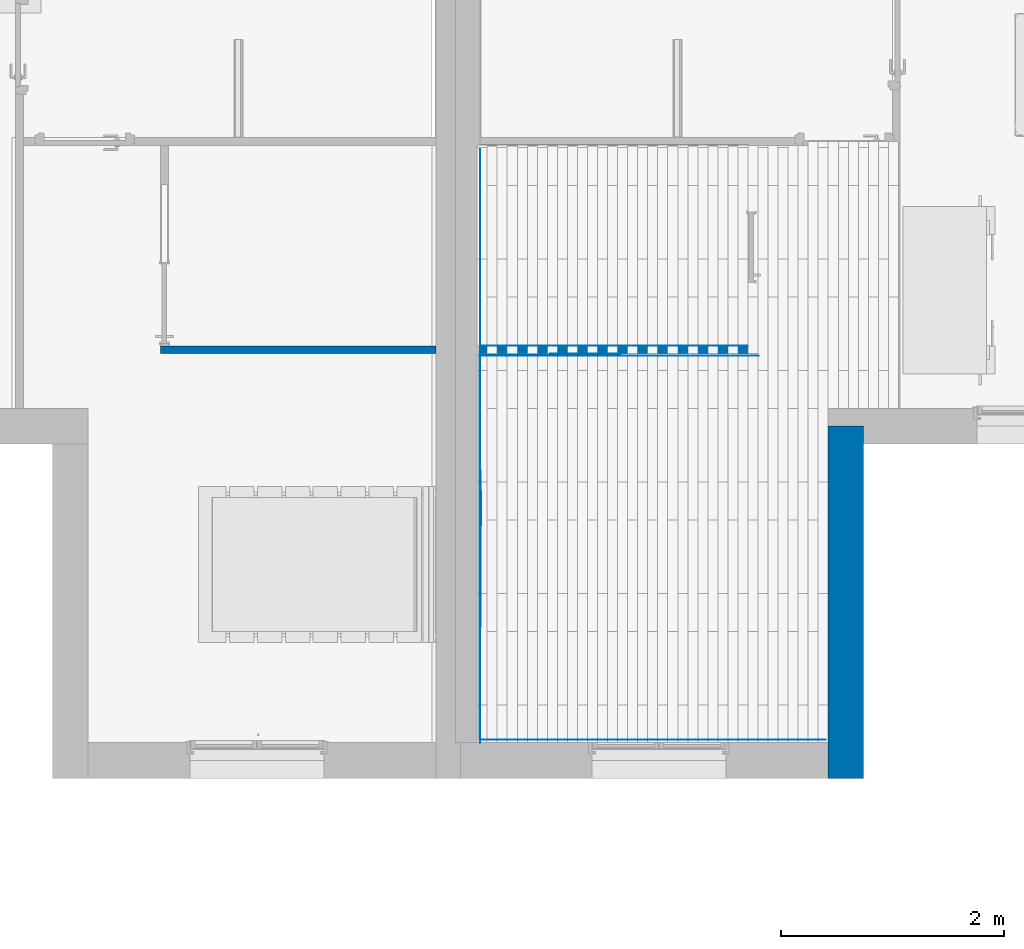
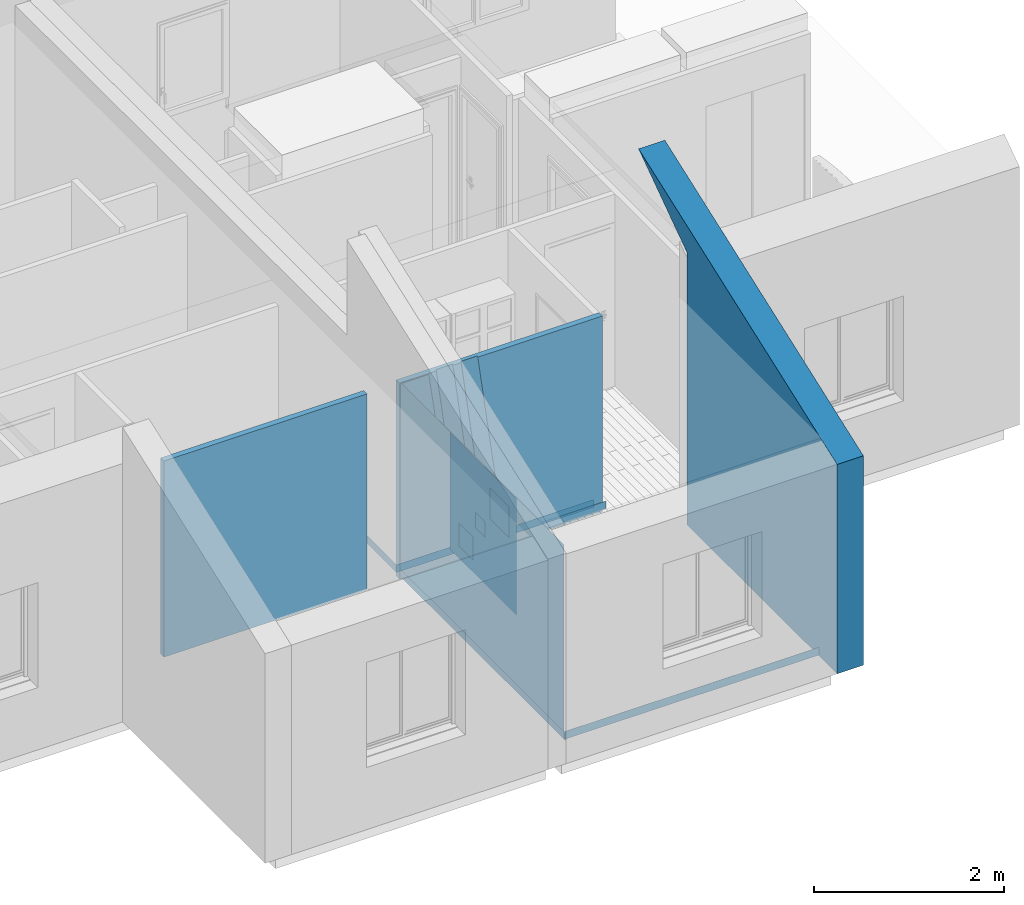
# One storey, part 27 of 61: 13 walls, 4 openings.
"""IFC2X3 building model written with IfcOpenShell, lengths in metres."""

import ifcopenshell
import ifcopenshell.guid

model = None  # the IFC model being written
_history = None  # IfcOwnerHistory: only IFC2X3 demands one
_inside = {}  # id of a spatial element -> (the spatial element, [elements in it])
_under = {}  # id of a project, library or spatial element -> (it, [spatial elements below it])
_declared = {}  # id of a project -> (the project, [libraries it declares])
_typed = {}  # id of a type object -> (the type object, [elements of that type])
_made_of = {}  # id of a material, layer set ... -> (it, [elements and type objects made of it])


def new_model(schema):
    """Start an empty IFC model of exactly this schema.

    Asked for "IFC4X3", IfcOpenShell would pick the latest addendum, in which some entities
    have other attributes; the version numbers below select the first issue.
    IFC2X3 requires an IfcOwnerHistory on every rooted entity: one is made here for all.
    """
    global model, _history
    if schema == "IFC4X3":
        model = ifcopenshell.file(schema_version=(4, 3, 0, 0))
    else:
        model = ifcopenshell.file(schema=schema)
    _inside.clear()
    _under.clear()
    _declared.clear()
    _typed.clear()
    _made_of.clear()
    _history = None
    if model.schema == "IFC2X3":
        org = make("IfcOrganization", Name="unknown")
        user = make(
            "IfcPersonAndOrganization",
            ThePerson=make("IfcPerson", FamilyName="unknown"),
            TheOrganization=org,
        )
        app = make(
            "IfcApplication",
            ApplicationDeveloper=org,
            Version="unknown",
            ApplicationFullName="unknown",
            ApplicationIdentifier="unknown",
        )
        _history = make(
            "IfcOwnerHistory",
            OwningUser=user,
            OwningApplication=app,
            ChangeAction="ADDED",
            CreationDate=0,
        )
    return model


def make(cls, **values):
    """One entity of the class cls with the attributes given. An attribute that is None is left unset."""
    return model.create_entity(
        cls, **{name: value for name, value in values.items() if value is not None}
    )


def entity(cls, *values):
    """Any entity or typed value of the class cls, its attributes in the order of the schema. None: left unset."""
    e = model.create_entity(cls)
    for i, value in enumerate(values):
        if value is not None:
            e[i] = value
    return e


def rooted(cls, **values):
    """An entity with a GlobalId (a new one), such as an element, a storey or a relation."""
    return make(cls, GlobalId=ifcopenshell.guid.new(), OwnerHistory=_history, **values)


def si_unit(unit_type, name, prefix=None):
    """IfcSIUnit, for example si_unit("LENGTHUNIT", "METRE", prefix="MILLI")."""
    return make("IfcSIUnit", UnitType=unit_type, Prefix=prefix, Name=name)


def converted_unit(unit_type, name, factor, base, dimensions=None, offset=None):
    """IfcConversionBasedUnit, such as the inch: factor (a typed value) times the base unit."""
    return make(
        "IfcConversionBasedUnit"
        if offset is None
        else "IfcConversionBasedUnitWithOffset",
        ConversionOffset=offset,
        Dimensions=None
        if dimensions is None
        else entity("IfcDimensionalExponents", *dimensions),
        UnitType=unit_type,
        Name=name,
        ConversionFactor=make(
            "IfcMeasureWithUnit", ValueComponent=factor, UnitComponent=base
        ),
    )


def derived_unit(unit_type, elements):
    """IfcDerivedUnit: a product of units, each with its exponent."""
    return make(
        "IfcDerivedUnit",
        Elements=[
            make("IfcDerivedUnitElement", Unit=unit, Exponent=power)
            for unit, power in elements
        ],
        UnitType=unit_type,
    )


def assignment(units):
    """IfcUnitAssignment: the units of a project."""
    return None if units is None else make("IfcUnitAssignment", Units=units)


def point(xyz):
    """IfcCartesianPoint."""
    return None if xyz is None else make("IfcCartesianPoint", Coordinates=xyz)


def direction(xyz):
    """IfcDirection."""
    return None if xyz is None else make("IfcDirection", DirectionRatios=xyz)


def frame(location, z_axis=None, x_axis=None):
    """IfcAxis2Placement3D, a coordinate frame: its origin and axes. An axis left out is left unset."""
    return make(
        "IfcAxis2Placement3D",
        Location=point(location),
        Axis=direction(z_axis),
        RefDirection=direction(x_axis),
    )


def frame_2d(location, x_axis=None):
    """IfcAxis2Placement2D, a coordinate frame in the plane: its origin and x axis."""
    return make(
        "IfcAxis2Placement2D", Location=point(location), RefDirection=direction(x_axis)
    )


def origin():
    """The frame at (0, 0, 0) with its axes left unset."""
    return frame((0.0, 0.0, 0.0))


def origin_2d_with_axis():
    """The frame at (0, 0) in the plane with the x axis (1, 0) written out."""
    return frame_2d((0.0, 0.0), x_axis=(1.0, 0.0))


def place(relative_to, where):
    """IfcLocalPlacement: puts the frame where relative to a parent placement (None: the world)."""
    return make(
        "IfcLocalPlacement", PlacementRelTo=relative_to, RelativePlacement=where
    )


def context(
    kind, dimensions, precision=None, world=None, true_north=None, identifier=None
):
    """IfcGeometricRepresentationContext, for example the 3D "Model" context."""
    return make(
        "IfcGeometricRepresentationContext",
        ContextIdentifier=identifier,
        ContextType=kind,
        CoordinateSpaceDimension=dimensions,
        Precision=precision,
        WorldCoordinateSystem=world,
        TrueNorth=true_north,
    )


def subcontext(parent, identifier, kind, view, scale=None):
    """IfcGeometricRepresentationSubContext, for example "Body" below "Model"."""
    return make(
        "IfcGeometricRepresentationSubContext",
        ContextIdentifier=identifier,
        ContextType=kind,
        ParentContext=parent,
        TargetScale=scale,
        TargetView=view,
    )


def project(units=None, contexts=None):
    """IfcProject with its units and contexts."""
    return rooted(
        "IfcProject",
        Name="project",
        RepresentationContexts=contexts,
        UnitsInContext=assignment(units),
    )


def spatial(cls, under=None, at=None, **own):
    """A site, building, storey or space (cls), placed at a placement, below another one or the project."""
    s = rooted(cls, ObjectPlacement=at, **own)
    if under is not None:
        _under.setdefault(under.id(), (under, []))[1].append(s)
    return s


def polyline(points):
    """IfcPolyline through the points."""
    return make("IfcPolyline", Points=[point(p) for p in points])


def profile(cls, at=None, kind="AREA", **sizes):
    """A parametric profile (cls). Its sizes go by their IFC names, for example OverallWidth=200.0."""
    return make(cls, ProfileType=kind, Position=at, **sizes)


def rectangle(**sizes):
    """IfcRectangleProfileDef."""
    return profile("IfcRectangleProfileDef", **sizes)


def outline(outer, holes=None, kind="AREA"):
    """IfcArbitraryClosedProfileDef: a profile drawn as a closed curve; with holes, ...WithVoids."""
    if holes is None:
        return make("IfcArbitraryClosedProfileDef", ProfileType=kind, OuterCurve=outer)
    return make(
        "IfcArbitraryProfileDefWithVoids",
        ProfileType=kind,
        OuterCurve=outer,
        InnerCurves=holes,
    )


def extrude(swept, where, along, depth):
    """IfcExtrudedAreaSolid: the profile swept, set in the frame where, extruded along a direction by depth."""
    return make(
        "IfcExtrudedAreaSolid",
        SweptArea=swept,
        Position=where,
        ExtrudedDirection=direction(along),
        Depth=depth,
    )


def clip(a, b, op="DIFFERENCE"):
    """IfcBooleanClippingResult: the solid a cut by the half space b."""
    return make(
        "IfcBooleanClippingResult", Operator=op, FirstOperand=a, SecondOperand=b
    )


def halfspace(plane, agree):
    """IfcHalfSpaceSolid: all space on one side of the plane z = 0 of the frame plane."""
    return make(
        "IfcHalfSpaceSolid",
        BaseSurface=make("IfcPlane", Position=plane),
        AgreementFlag=agree,
    )


def shape(context_of_items, identifier, shape_type, items):
    """IfcShapeRepresentation: the items that make up one representation, for example the "Body"."""
    return make(
        "IfcShapeRepresentation",
        ContextOfItems=context_of_items,
        RepresentationIdentifier=identifier,
        RepresentationType=shape_type,
        Items=items,
    )


def material(Name=None, Category=None):
    """IfcMaterial."""
    return make("IfcMaterial", Name=Name, Category=Category)


def layer(
    of_material, thickness, ventilated=None, Name=None, Category=None, Priority=None
):
    """IfcMaterialLayer: one layer of a wall or slab, of a material (None: an air gap)."""
    return make(
        "IfcMaterialLayer",
        Material=of_material,
        LayerThickness=thickness,
        IsVentilated=ventilated,
        Name=Name,
        Category=Category,
        Priority=Priority,
    )


def layer_set(layers, Name=None):
    """IfcMaterialLayerSet."""
    return make("IfcMaterialLayerSet", MaterialLayers=layers, LayerSetName=Name)


def layer_usage(for_layer_set, set_direction, sense, offset, extent=None):
    """IfcMaterialLayerSetUsage: how a layer set lies in its element."""
    return make(
        "IfcMaterialLayerSetUsage",
        ForLayerSet=for_layer_set,
        LayerSetDirection=set_direction,
        DirectionSense=sense,
        OffsetFromReferenceLine=offset,
        ReferenceExtent=extent,
    )


def made_of(thing, what):
    """Note that an element or type object is made of a material, layer set ...; save() writes the relation."""
    if what is not None:
        _made_of.setdefault(what.id(), (what, []))[1].append(thing)
    return thing


def type_object(cls, material=None, **own):
    """A type object (cls), such as IfcWallType, which elements share."""
    return made_of(rooted(cls, **own), material)


def element(
    cls,
    number,
    at=None,
    inside=None,
    cuts=None,
    type_object=None,
    material=None,
    context=None,
    identifier="Body",
    shape_type=None,
    held_by="IfcProductDefinitionShape",
    body=None,
    shapes=None,
    **own,
):
    """One element of the class cls, such as IfcWall. Its Tag is "e" and its number.

    at: its placement. inside: the storey or other place that contains it. cuts: it is an
    opening in that element (IfcRelVoidsElement). A single representation is given by context,
    identifier, shape_type and body (its items); several are given by shapes. held_by: the class
    of the entity that holds the representations. save() writes the other relations.
    """
    e = rooted(cls, Tag="e%d" % number, ObjectPlacement=at, **own)
    if body is not None:
        shapes = [shape(context, identifier, shape_type, body)]
    if shapes is not None:
        e.Representation = make(held_by, Representations=shapes)
    if inside is not None:
        _inside.setdefault(inside.id(), (inside, []))[1].append(e)
    if cuts is not None:
        rooted(
            "IfcRelVoidsElement", RelatingBuildingElement=cuts, RelatedOpeningElement=e
        )
    if type_object is not None:
        _typed.setdefault(type_object.id(), (type_object, []))[1].append(e)
    return made_of(e, material)


def aggregate(whole, parts):
    """IfcRelAggregates: a whole, such as a stair, and the parts it consists of."""
    return rooted("IfcRelAggregates", RelatingObject=whole, RelatedObjects=parts)


def save(model, path):
    """Write the relations noted so far, then the file.

    IfcRelAggregates (storeys below a building ...), IfcRelContainedInSpatialStructure (elements
    in a storey), IfcRelDefinesByType, IfcRelAssociatesMaterial and IfcRelDeclares: one each for
    every whole, place, type object, material and project.
    """
    for whole, parts in _under.values():
        aggregate(whole, parts)
    for where, things in _inside.values():
        rooted(
            "IfcRelContainedInSpatialStructure",
            RelatedElements=things,
            RelatingStructure=where,
        )
    for kind, things in _typed.values():
        rooted("IfcRelDefinesByType", RelatedObjects=things, RelatingType=kind)
    for what, things in _made_of.values():
        rooted("IfcRelAssociatesMaterial", RelatedObjects=things, RelatingMaterial=what)
    for by, libraries in _declared.values():
        rooted("IfcRelDeclares", RelatingContext=by, RelatedDefinitions=libraries)
    model.write(path)


model = new_model("IFC2X3")

# Units and contexts
model_context = context("Model", 3, precision=1e-05, world=origin(), true_north=direction((6.12303176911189e-17, 1.0)))
body_context = subcontext(model_context, "Body", "Model", "MODEL_VIEW")
ifc_project = project(units=[si_unit("LENGTHUNIT", "METRE"), si_unit("AREAUNIT", "SQUARE_METRE"), si_unit("VOLUMEUNIT", "CUBIC_METRE"), converted_unit("PLANEANGLEUNIT", "DEGREE", entity("IfcRatioMeasure", 0.0174532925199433), si_unit("PLANEANGLEUNIT", "RADIAN"), dimensions=[0, 0, 0, 0, 0, 0, 0]), si_unit("MASSUNIT", "GRAM", prefix="KILO"), derived_unit("MASSDENSITYUNIT", [(si_unit("MASSUNIT", "GRAM", prefix="KILO"), 1), (si_unit("LENGTHUNIT", "METRE"), -3)]), si_unit("TIMEUNIT", "SECOND"), si_unit("FREQUENCYUNIT", "HERTZ"), si_unit("THERMODYNAMICTEMPERATUREUNIT", "DEGREE_CELSIUS"), derived_unit("THERMALTRANSMITTANCEUNIT", [(si_unit("MASSUNIT", "GRAM", prefix="KILO"), 1), (si_unit("THERMODYNAMICTEMPERATUREUNIT", "KELVIN"), -1), (si_unit("TIMEUNIT", "SECOND"), -3)]), derived_unit("VOLUMETRICFLOWRATEUNIT", [(si_unit("LENGTHUNIT", "METRE"), 3), (si_unit("TIMEUNIT", "SECOND"), -1)]), si_unit("ELECTRICCURRENTUNIT", "AMPERE"), si_unit("ELECTRICVOLTAGEUNIT", "VOLT"), si_unit("POWERUNIT", "WATT"), si_unit("FORCEUNIT", "NEWTON", prefix="KILO"), si_unit("ILLUMINANCEUNIT", "LUX"), si_unit("LUMINOUSFLUXUNIT", "LUMEN"), si_unit("LUMINOUSINTENSITYUNIT", "CANDELA"), derived_unit("USERDEFINED", [(si_unit("MASSUNIT", "GRAM", prefix="KILO"), -1), (si_unit("LENGTHUNIT", "METRE"), -2), (si_unit("TIMEUNIT", "SECOND"), 3), (si_unit("LUMINOUSFLUXUNIT", "LUMEN"), 1)]), derived_unit("LINEARVELOCITYUNIT", [(si_unit("LENGTHUNIT", "METRE"), 1), (si_unit("TIMEUNIT", "SECOND"), -1)]), si_unit("PRESSUREUNIT", "PASCAL"), derived_unit("USERDEFINED", [(si_unit("LENGTHUNIT", "METRE"), -2), (si_unit("MASSUNIT", "GRAM", prefix="KILO"), 1), (si_unit("TIMEUNIT", "SECOND"), -2)])], contexts=[model_context])

# Site, building, storey
site_placement = place(None, origin())
site = spatial("IfcSite", under=ifc_project, at=site_placement, Name="Surface", CompositionType="ELEMENT")
building_placement = place(site_placement, origin())
building = spatial("IfcBuilding", under=site, at=building_placement, CompositionType="ELEMENT")
storey_placement = place(building_placement, frame((0.0, 0.0, 2.82)))
storey = spatial("IfcBuildingStorey", under=building, at=storey_placement, Name="ETAGE", CompositionType="ELEMENT", Elevation=2.82)

# Walls
ifc_material_1 = material(Name="Peinture - Blanc")
ifc_layer_1 = layer(ifc_material_1, 0.07)
ifc_layer_set_1 = layer_set([ifc_layer_1], Name="Mur de base:Int.  Platre 70 mm en blanc")
ifc_layer_usage_1 = layer_usage(ifc_layer_set_1, "AXIS2", "NEGATIVE", 0.035)
wall_type_1 = type_object("IfcWallType", Name="Mur de base:Int.  Platre 70 mm en blanc", PredefinedType="STANDARD", material=ifc_layer_set_1)
wall_1_placement = place(storey_placement, frame((86.3967857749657, 84.7725239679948, 0.0), z_axis=(0.0, 0.0, 1.0), x_axis=(-1.0, 0.0, 0.0)))
element("IfcWallStandardCase", 1, at=wall_1_placement, inside=storey, type_object=wall_type_1, material=ifc_layer_usage_1, Name="Mur de base:Int.  Platre 70 mm en blanc", ObjectType="Mur de base:Int.  Platre 70 mm en blanc", context=body_context, shape_type="SweptSolid", body=[
    extrude(rectangle(XDim=2.47038340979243, YDim=0.0699999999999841, at=frame_2d((1.23519170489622, 0.0), x_axis=(-1.0, 0.0))), origin(), (0.0, 0.0, 1.0), 2.52),
])
ifc_layer_usage_2 = layer_usage(ifc_layer_set_1, "AXIS2", "POSITIVE", -0.035)
wall_2_placement = place(storey_placement, frame((81.0610189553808, 84.7725239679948, 0.0)))
element("IfcWallStandardCase", 2, at=wall_2_placement, inside=storey, type_object=wall_type_1, material=ifc_layer_usage_2, Name="Mur de base:Int.  Platre 70 mm en blanc", ObjectType="Mur de base:Int.  Platre 70 mm en blanc", context=body_context, shape_type="SweptSolid", body=[
    extrude(rectangle(XDim=2.47038340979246, YDim=0.0699999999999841, at=frame_2d((1.23519170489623, 0.0), x_axis=(-1.0, 0.0))), origin(), (0.0, 0.0, 1.0), 2.52),
])

# Wall, opening
ifc_material_2 = material(Name="Enduit  gris")
ifc_layer_2 = layer(ifc_material_2, 0.02)
ifc_material_3 = material(Name="Parpaing")
ifc_layer_3 = layer(ifc_material_3, 0.2)
ifc_material_4 = material(Name="Isolant")
ifc_layer_4 = layer(ifc_material_4, 0.1)
ifc_layer_set_2 = layer_set([ifc_layer_2, ifc_layer_3, ifc_layer_4], Name="Mur de base:Ext. Parpaing 20 + Isolant 10 enduit gris")
ifc_layer_usage_3 = layer_usage(ifc_layer_set_2, "AXIS2", "NEGATIVE", 0.16)
wall_type_2 = type_object("IfcWallType", Name="Mur de base:Ext. Parpaing 20 + Isolant 10 enduit gris", PredefinedType="STANDARD", material=ifc_layer_set_2)
wall_3_placement = place(storey_placement, frame((87.2067857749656, 85.1094083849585, 0.0), z_axis=(0.0, 0.0, 1.0), x_axis=(0.0, -1.0, 0.0)))
wall_3 = element("IfcWallStandardCase", 3, at=wall_3_placement, inside=storey, type_object=wall_type_2, material=ifc_layer_usage_3, Name="Mur de base:Ext. Parpaing 20 + Isolant 10 enduit gris", ObjectType="Mur de base:Ext. Parpaing 20 + Isolant 10 enduit gris", context=body_context, shape_type="Clipping", body=[
    clip(clip(extrude(rectangle(XDim=4.1818844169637, YDim=0.319999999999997, at=frame_2d((2.09094220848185, 0.0), x_axis=(-1.0, 0.0))), origin(), (0.0, 0.0, 1.0), 4.21384621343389), halfspace(frame((0.0, -0.159999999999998, 4.21384621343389), z_axis=(0.342020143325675, 0.0, 0.939692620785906), x_axis=(0.0, 1.0, 0.0)), False)), halfspace(frame((0.0, 0.0, 4.21384621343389), z_axis=(-0.971831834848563, 0.0, -0.235675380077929), x_axis=(0.0, 1.0, 0.0)), False)),
])
opening_1_placement = place(wall_3_placement, origin())
element("IfcOpeningElement", 4, at=opening_1_placement, cuts=wall_3, Name="Mur de base:Ext. Parpaing 20 + Isolant 10 enduit gris", ObjectType="Opening", context=body_context, shape_type="SweptSolid", body=[
    extrude(outline(polyline([(-1.75739728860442, -0.274822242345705), (2.57858560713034, -0.274822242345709), (-0.82118831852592, 0.549644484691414), (-1.75739728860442, -0.274822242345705)])), frame((0.681256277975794, 0.159999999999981, 2.57072041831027), z_axis=(0.0, -1.0, 0.0), x_axis=(0.235675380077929, 0.0, -0.971831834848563)), (0.0, 0.0, 1.0), 0.32),
])

# Walls
ifc_material_5 = material(Name="biorox 2")
ifc_layer_5 = layer(ifc_material_5, 0.002)
ifc_layer_set_3 = layer_set([ifc_layer_5], Name="Mur de base:peinture biorox 2")
ifc_layer_usage_4 = layer_usage(ifc_layer_set_3, "AXIS2", "POSITIVE", -0.001)
wall_type_3 = type_object("IfcWallType", Name="Mur de base:peinture biorox 2", PredefinedType="STANDARD", material=ifc_layer_set_3)
wall_4_placement = place(storey_placement, frame((83.9310898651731, 84.8089434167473, 0.0400000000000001)))
element("IfcWallStandardCase", 5, at=wall_4_placement, inside=storey, type_object=wall_type_3, material=ifc_layer_usage_4, Name="Mur de base:peinture biorox 2", ObjectType="Mur de base:peinture biorox 2", context=body_context, shape_type="Clipping", body=[
    clip(extrude(rectangle(XDim=2.39781250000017, YDim=0.00199999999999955, at=frame_2d((1.19890625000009, -3.477903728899e-15), x_axis=(-1.0, 0.0))), origin(), (0.0, 0.0, 1.0), 0.0997627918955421), halfspace(frame((0.0, -0.000999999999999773, 0.0997627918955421), z_axis=(0.0, 0.0, 1.0), x_axis=(0.0, 1.0, 0.0)), False)),
])
ifc_layer_usage_5 = layer_usage(ifc_layer_set_3, "AXIS2", "NEGATIVE", 0.001)
wall_5_placement = place(storey_placement, frame((84.3695433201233, 84.7361045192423, 0.14)))
element("IfcWallStandardCase", 6, at=wall_5_placement, inside=storey, type_object=wall_type_3, material=ifc_layer_usage_5, Name="Mur de base:peinture biorox 2", ObjectType="Mur de base:peinture biorox 2", context=body_context, shape_type="Clipping", body=[
    clip(clip(extrude(rectangle(XDim=0.518694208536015, YDim=0.00199999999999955, at=frame_2d((0.259347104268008, 0.0), x_axis=(-1.0, 0.0))), origin(), (0.0, 0.0, 1.0), 2.4), halfspace(frame((0.316929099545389, -0.000999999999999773, 0.0), z_axis=(-0.991393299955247, 0.0, -0.130917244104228), x_axis=(0.0, 1.0, 0.0)), False)), halfspace(frame((0.201765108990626, -0.000999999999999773, 2.4), z_axis=(0.991393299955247, 0.0, 0.130917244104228), x_axis=(0.0, 1.0, 0.0)), False)),
])

# Wall, openings
ifc_layer_usage_6 = layer_usage(ifc_layer_set_3, "AXIS2", "POSITIVE", -0.001)
wall_6_placement = place(storey_placement, frame((83.9345898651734, 83.6875239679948, 1.02), z_axis=(0.0, 0.0, 1.0), x_axis=(0.0, -1.0, 0.0)))
wall_6 = element("IfcWallStandardCase", 7, at=wall_6_placement, inside=storey, type_object=wall_type_3, material=ifc_layer_usage_6, Name="Mur de base:peinture biorox 2", ObjectType="Mur de base:peinture biorox 2", context=body_context, shape_type="Clipping", body=[
    clip(clip(extrude(rectangle(XDim=1.39999999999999, YDim=0.00199999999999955, at=frame_2d((0.699999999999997, 0.0), x_axis=(-1.0, 0.0))), origin(), (0.0, 0.0, 1.0), 1.5), halfspace(frame((1.39999999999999, -0.000999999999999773, 0.0), z_axis=(0.0, 0.0, -1.0), x_axis=(0.0, 1.0, 0.0)), False)), halfspace(frame((0.0, -0.000999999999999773, 1.5), z_axis=(0.0, 0.0, 1.0), x_axis=(0.0, 1.0, 0.0)), False)),
])
opening_2_placement = place(wall_6_placement, origin())
element("IfcOpeningElement", 8, at=opening_2_placement, cuts=wall_6, Name="Mur de base:peinture biorox 2", ObjectType="Opening", context=body_context, shape_type="SweptSolid", body=[
    extrude(rectangle(XDim=0.400000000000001, YDim=0.399999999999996, at=frame_2d((5.41233724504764e-16, 8.65973959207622e-15), x_axis=(1.0, 0.0))), frame((1.03716110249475, 0.000999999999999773, 1.1), z_axis=(0.0, -1.0, 0.0), x_axis=(0.0, 0.0, -1.0)), (0.0, 0.0, 1.0), 0.002),
])
opening_3_placement = place(wall_6_placement, origin())
element("IfcOpeningElement", 9, at=opening_3_placement, cuts=wall_6, Name="Mur de base:peinture biorox 2", ObjectType="Opening", context=body_context, shape_type="SweptSolid", body=[
    extrude(rectangle(XDim=0.200000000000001, YDim=0.200000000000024, at=frame_2d((2.70616862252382e-16, 0.0), x_axis=(1.0, 0.0))), frame((0.637161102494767, 0.000999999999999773, 0.699999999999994), z_axis=(0.0, -1.0, 0.0), x_axis=(0.0, 0.0, -1.0)), (0.0, 0.0, 1.0), 0.002),
])
opening_4_placement = place(wall_6_placement, origin())
element("IfcOpeningElement", 10, at=opening_4_placement, cuts=wall_6, Name="Mur de base:peinture biorox 2", ObjectType="Opening", context=body_context, shape_type="SweptSolid", body=[
    extrude(rectangle(XDim=0.300000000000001, YDim=0.300000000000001, at=origin_2d_with_axis()), frame((0.337161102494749, 0.000999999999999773, 0.299999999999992), z_axis=(0.0, -1.0, 0.0), x_axis=(0.0, 0.0, -1.0)), (0.0, 0.0, 1.0), 0.002),
])

# Walls
ifc_material_6 = material(Name="Blanc - Element de salle de bains")
ifc_layer_6 = layer(ifc_material_6, 0.002)
ifc_layer_set_4 = layer_set([ifc_layer_6], Name="Mur de base:PLINTHE EN BOIS")
ifc_layer_usage_7 = layer_usage(ifc_layer_set_4, "AXIS2", "NEGATIVE", 0.001)
wall_type_4 = type_object("IfcWallType", Name="Mur de base:PLINTHE EN BOIS", PredefinedType="STANDARD", material=ifc_layer_set_4)
wall_7_placement = place(storey_placement, frame((83.9300898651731, 86.5975239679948, 0.0400000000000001), z_axis=(0.0, 0.0, 1.0), x_axis=(0.0, -1.0, 0.0)))
element("IfcWallStandardCase", 11, at=wall_7_placement, inside=storey, type_object=wall_type_4, material=ifc_layer_usage_7, Name="Mur de base:PLINTHE EN BOIS", ObjectType="Mur de base:PLINTHE EN BOIS", context=body_context, shape_type="SweptSolid", body=[
    extrude(rectangle(XDim=5.34999999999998, YDim=0.00199999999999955, at=frame_2d((2.67499999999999, 0.0), x_axis=(-1.0, 0.0))), origin(), (0.0, 0.0, 1.0), 0.1),
])
ifc_layer_usage_8 = layer_usage(ifc_layer_set_4, "AXIS2", "POSITIVE", -0.001)
wall_8_placement = place(storey_placement, frame((83.9276523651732, 81.2735239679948, 0.0400000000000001)))
element("IfcWallStandardCase", 12, at=wall_8_placement, inside=storey, type_object=wall_type_4, material=ifc_layer_usage_8, Name="Mur de base:PLINTHE EN BOIS", ObjectType="Mur de base:PLINTHE EN BOIS", context=body_context, shape_type="SweptSolid", body=[
    extrude(rectangle(XDim=3.10100000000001, YDim=0.00199999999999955, at=frame_2d((1.5505, -5.85469173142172e-18), x_axis=(-1.0, 0.0))), origin(), (0.0, 0.0, 1.0), 0.1),
])
ifc_layer_usage_9 = layer_usage(ifc_layer_set_4, "AXIS2", "NEGATIVE", 0.001)
wall_9_placement = place(storey_placement, frame((83.9276523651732, 84.7190239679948, 0.0400000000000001)))
element("IfcWallStandardCase", 13, at=wall_9_placement, inside=storey, type_object=wall_type_4, material=ifc_layer_usage_9, Name="Mur de base:PLINTHE EN BOIS", ObjectType="Mur de base:PLINTHE EN BOIS", context=body_context, shape_type="SweptSolid", body=[
    extrude(rectangle(XDim=2.5, YDim=0.00199999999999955, at=frame_2d((1.25, 1.7018721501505e-15), x_axis=(-1.0, 0.0))), origin(), (0.0, 0.0, 1.0), 0.1),
])
ifc_material_7 = material(Name="biorox 1")
ifc_layer_7 = layer(ifc_material_7, 0.002)
ifc_layer_set_5 = layer_set([ifc_layer_7], Name="Mur de base:peinture biorox 1")
ifc_layer_usage_10 = layer_usage(ifc_layer_set_5, "AXIS2", "NEGATIVE", 0.001)
wall_type_5 = type_object("IfcWallType", Name="Mur de base:peinture biorox 1", PredefinedType="STANDARD", material=ifc_layer_set_5)
wall_10_placement = place(storey_placement, frame((84.6721909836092, 84.7361045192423, 0.14)))
element("IfcWallStandardCase", 14, at=wall_10_placement, inside=storey, type_object=wall_type_5, material=ifc_layer_usage_10, Name="Mur de base:peinture biorox 1", ObjectType="Mur de base:peinture biorox 1", context=body_context, shape_type="Clipping", body=[
    clip(clip(extrude(rectangle(XDim=0.518694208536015, YDim=0.00199999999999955, at=frame_2d((0.259347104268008, 0.0), x_axis=(-1.0, 0.0))), origin(), (0.0, 0.0, 1.0), 2.4), halfspace(frame((0.316929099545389, -0.000999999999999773, 0.0), z_axis=(-0.991393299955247, 0.0, -0.130917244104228), x_axis=(0.0, 1.0, 0.0)), False)), halfspace(frame((0.201765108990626, -0.000999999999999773, 2.4), z_axis=(0.991393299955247, 0.0, 0.130917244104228), x_axis=(0.0, 1.0, 0.0)), False)),
])
wall_11_placement = place(storey_placement, frame((83.9365898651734, 83.5003628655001, 1.16999999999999), z_axis=(0.0, 0.0, 1.0), x_axis=(0.0, -1.0, 0.0)))
element("IfcWall", 15, at=wall_11_placement, inside=storey, type_object=wall_type_5, Name="Mur de base:peinture biorox 1", ObjectType="Mur de base:peinture biorox 1", context=body_context, shape_type="SweptSolid", body=[
    extrude(rectangle(XDim=0.00199999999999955, YDim=0.399999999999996, at=frame_2d((0.0, -8.65973959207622e-15), x_axis=(1.0, 0.0))), frame((0.849999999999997, 0.0, 0.750000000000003), z_axis=(0.0, 0.0, 1.0), x_axis=(0.0, 1.0, 0.0)), (0.0, 0.0, 1.0), 0.400000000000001),
    extrude(rectangle(XDim=0.00199999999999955, YDim=0.300000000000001, at=origin_2d_with_axis()), frame((0.150000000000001, 0.0, 0.0), z_axis=(0.0, 0.0, 1.0), x_axis=(0.0, 1.0, 0.0)), (0.0, 0.0, 1.0), 0.300000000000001),
    extrude(rectangle(XDim=0.00199999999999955, YDim=0.200000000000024, at=origin_2d_with_axis()), frame((0.450000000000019, 0.0, 0.450000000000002), z_axis=(0.0, 0.0, 1.0), x_axis=(0.0, 1.0, 0.0)), (0.0, 0.0, 1.0), 0.200000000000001),
])
ifc_material_8 = material(Name="papier peint jardin sarcelle")
ifc_layer_8 = layer(ifc_material_8, 0.002)
ifc_layer_set_6 = layer_set([ifc_layer_8], Name="Mur de base:PAPIER PEINT Jardin Sarcelle")
ifc_layer_usage_11 = layer_usage(ifc_layer_set_6, "AXIS2", "NEGATIVE", 0.001)
wall_type_6 = type_object("IfcWallType", Name="Mur de base:PAPIER PEINT Jardin Sarcelle", PredefinedType="STANDARD", material=ifc_layer_set_6)
wall_12_placement = place(storey_placement, frame((83.9276523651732, 84.7190239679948, 0.14), z_axis=(0.0, 0.0, 1.0), x_axis=(0.0, -1.0, 0.0)))
element("IfcWallStandardCase", 16, at=wall_12_placement, inside=storey, type_object=wall_type_6, material=ifc_layer_usage_11, Name="Mur de base:PAPIER PEINT Jardin Sarcelle", ObjectType="Mur de base:PAPIER PEINT Jardin Sarcelle", context=body_context, shape_type="Clipping", body=[
    clip(extrude(rectangle(XDim=3.44550000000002, YDim=0.00199999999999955, at=frame_2d((1.72275000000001, 0.0), x_axis=(-1.0, 0.0))), origin(), (0.0, 0.0, 1.0), 2.4), halfspace(frame((3.44550000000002, -0.000999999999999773, 0.0), z_axis=(0.0, 0.0, -1.0), x_axis=(0.0, 1.0, 0.0)), False)),
])
ifc_layer_usage_12 = layer_usage(ifc_layer_set_6, "AXIS2", "NEGATIVE", 0.001)
wall_13_placement = place(storey_placement, frame((83.9310898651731, 84.7211983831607, 0.14)))
element("IfcWallStandardCase", 17, at=wall_13_placement, inside=storey, type_object=wall_type_6, material=ifc_layer_usage_12, Name="Mur de base:PAPIER PEINT Jardin Sarcelle", ObjectType="Mur de base:PAPIER PEINT Jardin Sarcelle", context=body_context, shape_type="Clipping", body=[
    clip(extrude(rectangle(XDim=0.670970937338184, YDim=0.00199999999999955, at=frame_2d((0.335485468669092, 0.0), x_axis=(-1.0, 0.0))), origin(), (0.0, 0.0, 1.0), 2.38), halfspace(frame((0.340758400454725, -0.000999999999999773, 2.38), z_axis=(0.990511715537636, 0.0, 0.137428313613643), x_axis=(0.0, 1.0, 0.0)), False)),
])

save(model, "model.ifc")
